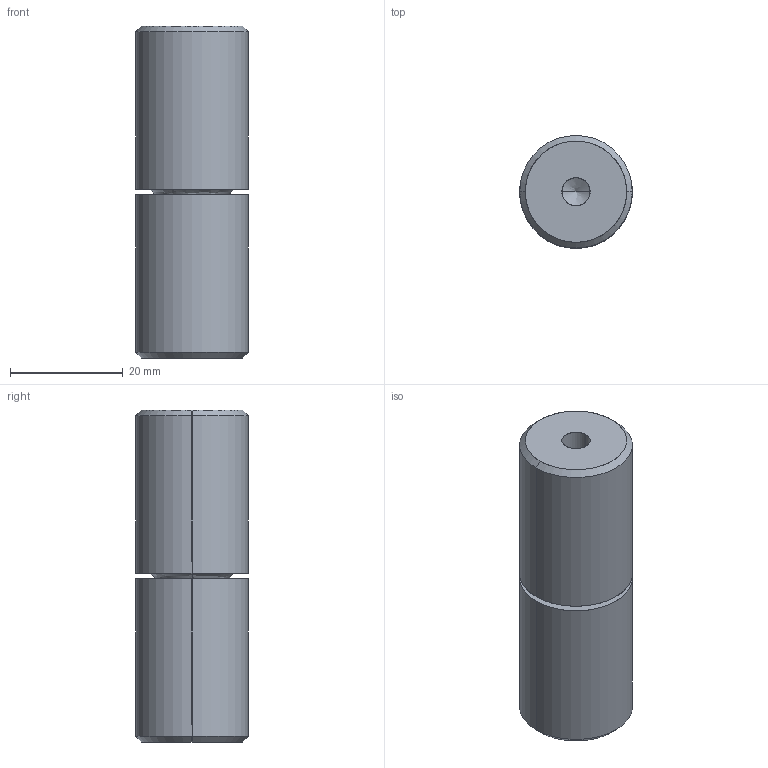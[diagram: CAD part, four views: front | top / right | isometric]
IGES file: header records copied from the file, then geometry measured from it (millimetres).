
Start section: SolidWorks IGES file using analytic representation for surfaces
Global section: file name: D:\Current\W1\TPNF20-16\TPNF20-16.IGS; native system: SolidWorks 2017; preprocessor: SolidWorks 2017; author: Ravi Kalvai; date: 240503.131042; units: millimetre
Bounding box: 20 x 20 x 59 mm (x, y, z)
Surface area: 6568.5 mm2 (no closed solid volume)
Topology: 0 solids, 0 shells, 34 faces, 464 edges, 462 vertices
Faces by surface type: revolution 20, bspline 14
